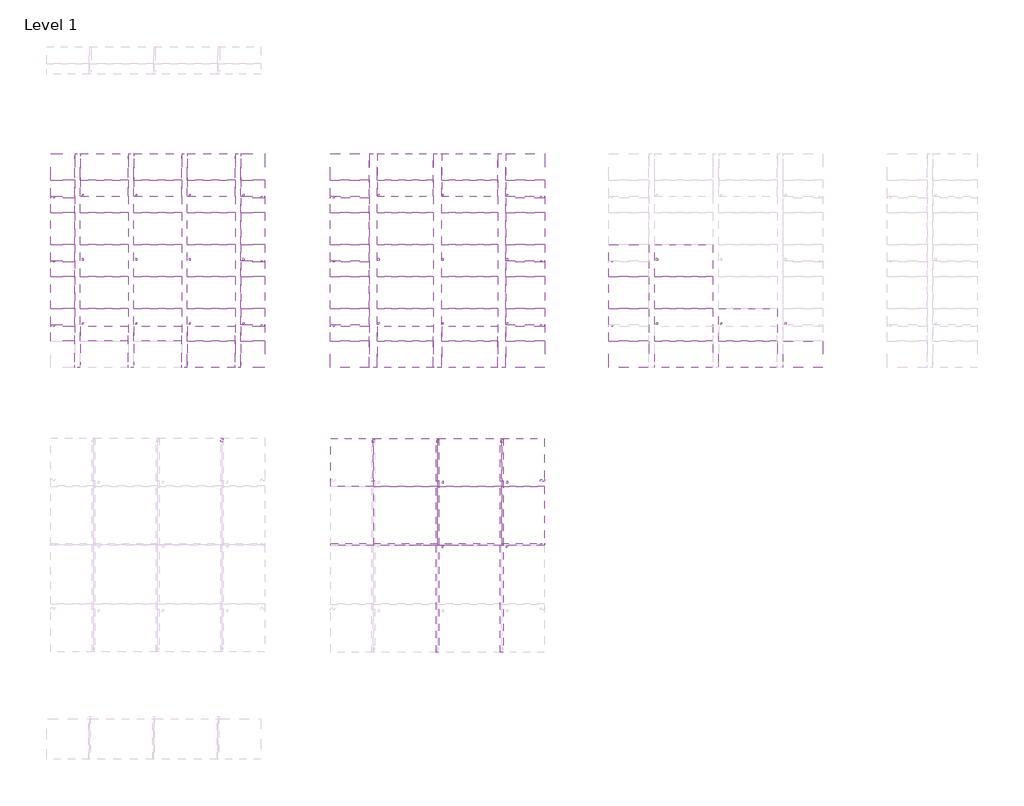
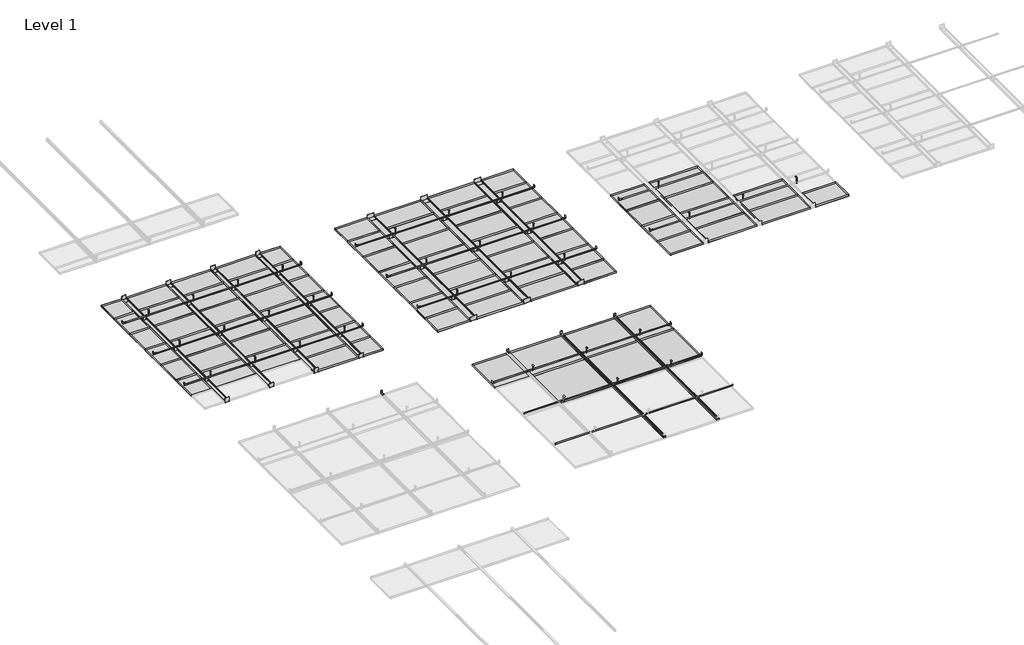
# One storey, part 3 of 32: 137 proxies.
"""IFC4 building model written with IfcOpenShell, lengths in millimetres."""

from ifc_helpers import new_model, si_unit, origin, place, context, project, spatial, transform, mapped, element, save
from components import generic_models_d1e42ad1, generic_models_d966d1ea, generic_models_a91f9f0f, generic_models_3457c1c0, generic_models_81118a57, generic_models_220a1359, generic_models_ecb8dbbe, generic_models_5ea52f49, generic_models_c5fd5fb8, generic_models_26e582ee, generic_models_d7250844, generic_models_7bf1d95b, generic_models_fdcbfbd4, generic_models_2a6c8002, generic_models_a2a5eb16, generic_models_9048d963, generic_models_91318ce9, generic_models_58ce1d20, generic_models_4de4666e, generic_models_ce491251, generic_models_ac107275, generic_models_9e18e937, generic_models_28f6a95c, generic_models_9ccf16c1, generic_models_743fb40c

model = new_model("IFC4")

# Units and contexts
model_context = context("Model", 3, world=origin())
ifc_project = project(units=[si_unit("LENGTHUNIT", "METRE", prefix="MILLI")], contexts=[model_context])

# Site, building, storey
site = spatial("IfcSite", under=ifc_project)
building = spatial("IfcBuilding", under=site)
storey = spatial("IfcBuildingStorey", under=building, Name="Level 1", Elevation=0.0)

# Proxies
placement = place(None, origin())
generic_models_shape = generic_models_d1e42ad1(model_context)
element("IfcBuildingElementProxy", 1, Name="durlum_S7KS_RHOMBOS : durlum_S7KS_RHOMBOS", ObjectType="durlum_S7KS_RHOMBOS : durlum_S7KS_RHOMBOS", at=placement, inside=storey, context=model_context, shape_type="MappedRepresentation", body=[
    mapped(generic_models_shape, transform((-38995.2269838, -7682.3044832, 0.0), x_axis=(1.0, 0.0, 0.0), y_axis=(0.0, 1.0, 0.0), z_axis=(0.0, 0.0, 1.0))),
])
generic_models_2_shape = generic_models_d966d1ea(model_context)
element("IfcBuildingElementProxy", 2, Name="durlum_S7KS_RHOMBOS_panel : durlum_S7KS_RHOMBOS_panel", ObjectType="durlum_S7KS_RHOMBOS_panel : durlum_S7KS_RHOMBOS_panel", at=placement, inside=storey, context=model_context, shape_type="MappedRepresentation", body=[
    mapped(generic_models_2_shape, transform((-39595.2269838, -7132.3044832, 3800.0), x_axis=(1.0, 0.0, 0.0), y_axis=(0.0, 1.0, 0.0), z_axis=(0.0, 0.0, 1.0))),
])
element("IfcBuildingElementProxy", 3, Name="durlum_S7KS_RHOMBOS_panel : durlum_S7KS_RHOMBOS_panel", ObjectType="durlum_S7KS_RHOMBOS_panel : durlum_S7KS_RHOMBOS_panel", at=placement, inside=storey, context=model_context, shape_type="MappedRepresentation", body=[
    mapped(generic_models_2_shape, transform((-38395.2269838, -7132.3044832, 3800.0), x_axis=(1.0, 0.0, 0.0), y_axis=(0.0, 1.0, 0.0), z_axis=(0.0, 0.0, 1.0))),
])
generic_models_3_shape = generic_models_a91f9f0f(model_context)
element("IfcBuildingElementProxy", 4, Name="durlum_S7KS_RHOMBOS_panel : durlum_S7KS_RHOMBOS_panel_wall_length_cut", ObjectType="durlum_S7KS_RHOMBOS_panel : durlum_S7KS_RHOMBOS_panel_wall_length_cut", at=placement, inside=storey, context=model_context, shape_type="MappedRepresentation", body=[
    mapped(generic_models_3_shape, transform((-37395.2269838, -7132.3044832, 3800.0), x_axis=(1.0, 0.0, 0.0), y_axis=(0.0, 1.0, 0.0), z_axis=(0.0, 0.0, 1.0))),
])
generic_models_4_shape = generic_models_3457c1c0(model_context)
element("IfcBuildingElementProxy", 5, Name="durlum_S7KS_RHOMBOS_panel : durlum_S7KS_RHOMBOS_panel_wall_width_cut", ObjectType="durlum_S7KS_RHOMBOS_panel : durlum_S7KS_RHOMBOS_panel_wall_width_cut", at=placement, inside=storey, context=model_context, shape_type="MappedRepresentation", body=[
    mapped(generic_models_4_shape, transform((-38395.2269838, -6132.3044832, 3800.0), x_axis=(1.0, 0.0, 0.0), y_axis=(0.0, 1.0, 0.0), z_axis=(0.0, 0.0, 1.0))),
])
element("IfcBuildingElementProxy", 6, Name="durlum_S7KS_RHOMBOS_panel : durlum_S7KS_RHOMBOS_panel_wall_width_cut", ObjectType="durlum_S7KS_RHOMBOS_panel : durlum_S7KS_RHOMBOS_panel_wall_width_cut", at=placement, inside=storey, context=model_context, shape_type="MappedRepresentation", body=[
    mapped(generic_models_4_shape, transform((-39595.2269838, -6132.3044832, 3800.0), x_axis=(1.0, 0.0, 0.0), y_axis=(0.0, 1.0, 0.0), z_axis=(0.0, 0.0, 1.0))),
])
generic_models_5_shape = generic_models_81118a57(model_context)
element("IfcBuildingElementProxy", 7, Name="durlum_S7KS_RHOMBOS_panel : durlum_S7KS_RHOMBOS_panel_wall_corner", ObjectType="durlum_S7KS_RHOMBOS_panel : durlum_S7KS_RHOMBOS_panel_wall_corner", at=placement, inside=storey, context=model_context, shape_type="MappedRepresentation", body=[
    mapped(generic_models_5_shape, transform((-37395.2269838, -6132.3044832, 3800.0), x_axis=(1.0, 0.0, 0.0), y_axis=(0.0, 1.0, 0.0), z_axis=(0.0, 0.0, 1.0))),
])
element("IfcBuildingElementProxy", 8, Name="durlum_S7KS_RHOMBOS_panel : durlum_S7KS_RHOMBOS_panel_wall_corner", ObjectType="durlum_S7KS_RHOMBOS_panel : durlum_S7KS_RHOMBOS_panel_wall_corner", at=placement, inside=storey, context=model_context, shape_type="MappedRepresentation", body=[
    mapped(generic_models_5_shape, transform((-40595.2269838, -6132.3044832, 3800.0), x_axis=(1.0, 0.0, 0.0), y_axis=(0.0, 1.0, 0.0), z_axis=(0.0, 0.0, 1.0))),
])
generic_models_6_shape = generic_models_220a1359(model_context)
element("IfcBuildingElementProxy", 9, Name="durlum_S5-150_RHOMBOS_panel : durlum_S5-150_RHOMBOS_panel", ObjectType="durlum_S5-150_RHOMBOS_panel : durlum_S5-150_RHOMBOS_panel", at=placement, inside=storey, context=model_context, shape_type="MappedRepresentation", body=[
    mapped(generic_models_6_shape, transform((-39595.2269838, -2961.3211481, 3800.0), x_axis=(1.0, 0.0, 0.0), y_axis=(0.0, 1.0, 0.0), z_axis=(0.0, 0.0, 1.0))),
])
element("IfcBuildingElementProxy", 10, Name="durlum_S5-150_RHOMBOS_panel : durlum_S5-150_RHOMBOS_panel", ObjectType="durlum_S5-150_RHOMBOS_panel : durlum_S5-150_RHOMBOS_panel", at=placement, inside=storey, context=model_context, shape_type="MappedRepresentation", body=[
    mapped(generic_models_6_shape, transform((-38395.2269838, -2961.3211481, 3800.0), x_axis=(1.0, 0.0, 0.0), y_axis=(0.0, 1.0, 0.0), z_axis=(0.0, 0.0, 1.0))),
])
element("IfcBuildingElementProxy", 11, Name="durlum_S5-150_RHOMBOS_panel : durlum_S5-150_RHOMBOS_panel", ObjectType="durlum_S5-150_RHOMBOS_panel : durlum_S5-150_RHOMBOS_panel", at=placement, inside=storey, context=model_context, shape_type="MappedRepresentation", body=[
    mapped(generic_models_6_shape, transform((-39595.2269838, -2361.3211481, 3800.0), x_axis=(1.0, 0.0, 0.0), y_axis=(0.0, 1.0, 0.0), z_axis=(0.0, 0.0, 1.0))),
])
element("IfcBuildingElementProxy", 12, Name="durlum_S5-150_RHOMBOS_panel : durlum_S5-150_RHOMBOS_panel", ObjectType="durlum_S5-150_RHOMBOS_panel : durlum_S5-150_RHOMBOS_panel", at=placement, inside=storey, context=model_context, shape_type="MappedRepresentation", body=[
    mapped(generic_models_6_shape, transform((-38395.2269838, -2361.3211481, 3800.0), x_axis=(1.0, 0.0, 0.0), y_axis=(0.0, 1.0, 0.0), z_axis=(0.0, 0.0, 1.0))),
])
element("IfcBuildingElementProxy", 13, Name="durlum_S5-150_RHOMBOS_panel : durlum_S5-150_RHOMBOS_panel", ObjectType="durlum_S5-150_RHOMBOS_panel : durlum_S5-150_RHOMBOS_panel", at=placement, inside=storey, context=model_context, shape_type="MappedRepresentation", body=[
    mapped(generic_models_6_shape, transform((-39595.2269838, -1761.3211481, 3800.0), x_axis=(1.0, 0.0, 0.0), y_axis=(0.0, 1.0, 0.0), z_axis=(0.0, 0.0, 1.0))),
])
element("IfcBuildingElementProxy", 14, Name="durlum_S5-150_RHOMBOS_panel : durlum_S5-150_RHOMBOS_panel", ObjectType="durlum_S5-150_RHOMBOS_panel : durlum_S5-150_RHOMBOS_panel", at=placement, inside=storey, context=model_context, shape_type="MappedRepresentation", body=[
    mapped(generic_models_6_shape, transform((-38395.2269838, -1761.3211481, 3800.0), x_axis=(1.0, 0.0, 0.0), y_axis=(0.0, 1.0, 0.0), z_axis=(0.0, 0.0, 1.0))),
])
element("IfcBuildingElementProxy", 15, Name="durlum_S5-150_RHOMBOS_panel : durlum_S5-150_RHOMBOS_panel", ObjectType="durlum_S5-150_RHOMBOS_panel : durlum_S5-150_RHOMBOS_panel", at=placement, inside=storey, context=model_context, shape_type="MappedRepresentation", body=[
    mapped(generic_models_6_shape, transform((-39595.2269838, -3561.3211481, 3800.0), x_axis=(1.0, 0.0, 0.0), y_axis=(0.0, 1.0, 0.0), z_axis=(0.0, 0.0, 1.0))),
])
element("IfcBuildingElementProxy", 16, Name="durlum_S5-150_RHOMBOS_panel : durlum_S5-150_RHOMBOS_panel", ObjectType="durlum_S5-150_RHOMBOS_panel : durlum_S5-150_RHOMBOS_panel", at=placement, inside=storey, context=model_context, shape_type="MappedRepresentation", body=[
    mapped(generic_models_6_shape, transform((-38395.2269838, -3561.3211481, 3800.0), x_axis=(1.0, 0.0, 0.0), y_axis=(0.0, 1.0, 0.0), z_axis=(0.0, 0.0, 1.0))),
])
element("IfcBuildingElementProxy", 17, Name="durlum_S5-150_RHOMBOS_panel : durlum_S5-150_RHOMBOS_panel", ObjectType="durlum_S5-150_RHOMBOS_panel : durlum_S5-150_RHOMBOS_panel", at=placement, inside=storey, context=model_context, shape_type="MappedRepresentation", body=[
    mapped(generic_models_6_shape, transform((-39595.2269838, -1161.3211481, 3800.0), x_axis=(1.0, 0.0, 0.0), y_axis=(0.0, 1.0, 0.0), z_axis=(0.0, 0.0, 1.0))),
])
element("IfcBuildingElementProxy", 18, Name="durlum_S5-150_RHOMBOS_panel : durlum_S5-150_RHOMBOS_panel", ObjectType="durlum_S5-150_RHOMBOS_panel : durlum_S5-150_RHOMBOS_panel", at=placement, inside=storey, context=model_context, shape_type="MappedRepresentation", body=[
    mapped(generic_models_6_shape, transform((-38395.2269838, -1161.3211481, 3800.0), x_axis=(1.0, 0.0, 0.0), y_axis=(0.0, 1.0, 0.0), z_axis=(0.0, 0.0, 1.0))),
])
generic_models_7_shape = generic_models_ecb8dbbe(model_context)
element("IfcBuildingElementProxy", 19, Name="durlum_S5-150_RHOMBOS_panel : durlum_S5-150_RHOMBOS_panel_wall_length_cut", ObjectType="durlum_S5-150_RHOMBOS_panel : durlum_S5-150_RHOMBOS_panel_wall_length_cut", at=placement, inside=storey, context=model_context, shape_type="MappedRepresentation", body=[
    mapped(generic_models_7_shape, transform((-40632.9769838, -2961.3211481, 3800.0), x_axis=(1.0, 0.0, 0.0), y_axis=(0.0, 1.0, 0.0), z_axis=(0.0, 0.0, 1.0))),
])
element("IfcBuildingElementProxy", 20, Name="durlum_S5-150_RHOMBOS_panel : durlum_S5-150_RHOMBOS_panel_wall_length_cut", ObjectType="durlum_S5-150_RHOMBOS_panel : durlum_S5-150_RHOMBOS_panel_wall_length_cut", at=placement, inside=storey, context=model_context, shape_type="MappedRepresentation", body=[
    mapped(generic_models_7_shape, transform((-37357.4769838, -2961.3211481, 3800.0), x_axis=(1.0, 0.0, 0.0), y_axis=(0.0, 1.0, 0.0), z_axis=(0.0, 0.0, 1.0))),
])
element("IfcBuildingElementProxy", 21, Name="durlum_S5-150_RHOMBOS_panel : durlum_S5-150_RHOMBOS_panel_wall_length_cut", ObjectType="durlum_S5-150_RHOMBOS_panel : durlum_S5-150_RHOMBOS_panel_wall_length_cut", at=placement, inside=storey, context=model_context, shape_type="MappedRepresentation", body=[
    mapped(generic_models_7_shape, transform((-40632.9769838, -2361.3211481, 3800.0), x_axis=(1.0, 0.0, 0.0), y_axis=(0.0, 1.0, 0.0), z_axis=(0.0, 0.0, 1.0))),
])
element("IfcBuildingElementProxy", 22, Name="durlum_S5-150_RHOMBOS_panel : durlum_S5-150_RHOMBOS_panel_wall_length_cut", ObjectType="durlum_S5-150_RHOMBOS_panel : durlum_S5-150_RHOMBOS_panel_wall_length_cut", at=placement, inside=storey, context=model_context, shape_type="MappedRepresentation", body=[
    mapped(generic_models_7_shape, transform((-37357.4769838, -2361.3211481, 3800.0), x_axis=(1.0, 0.0, 0.0), y_axis=(0.0, 1.0, 0.0), z_axis=(0.0, 0.0, 1.0))),
])
element("IfcBuildingElementProxy", 23, Name="durlum_S5-150_RHOMBOS_panel : durlum_S5-150_RHOMBOS_panel_wall_length_cut", ObjectType="durlum_S5-150_RHOMBOS_panel : durlum_S5-150_RHOMBOS_panel_wall_length_cut", at=placement, inside=storey, context=model_context, shape_type="MappedRepresentation", body=[
    mapped(generic_models_7_shape, transform((-40632.9769838, -1761.3211481, 3800.0), x_axis=(1.0, 0.0, 0.0), y_axis=(0.0, 1.0, 0.0), z_axis=(0.0, 0.0, 1.0))),
])
element("IfcBuildingElementProxy", 24, Name="durlum_S5-150_RHOMBOS_panel : durlum_S5-150_RHOMBOS_panel_wall_length_cut", ObjectType="durlum_S5-150_RHOMBOS_panel : durlum_S5-150_RHOMBOS_panel_wall_length_cut", at=placement, inside=storey, context=model_context, shape_type="MappedRepresentation", body=[
    mapped(generic_models_7_shape, transform((-37357.4769838, -1761.3211481, 3800.0), x_axis=(1.0, 0.0, 0.0), y_axis=(0.0, 1.0, 0.0), z_axis=(0.0, 0.0, 1.0))),
])
element("IfcBuildingElementProxy", 25, Name="durlum_S5-150_RHOMBOS_panel : durlum_S5-150_RHOMBOS_panel_wall_length_cut", ObjectType="durlum_S5-150_RHOMBOS_panel : durlum_S5-150_RHOMBOS_panel_wall_length_cut", at=placement, inside=storey, context=model_context, shape_type="MappedRepresentation", body=[
    mapped(generic_models_7_shape, transform((-40632.9769838, -3561.3211481, 3800.0), x_axis=(1.0, 0.0, 0.0), y_axis=(0.0, 1.0, 0.0), z_axis=(0.0, 0.0, 1.0))),
])
element("IfcBuildingElementProxy", 26, Name="durlum_S5-150_RHOMBOS_panel : durlum_S5-150_RHOMBOS_panel_wall_length_cut", ObjectType="durlum_S5-150_RHOMBOS_panel : durlum_S5-150_RHOMBOS_panel_wall_length_cut", at=placement, inside=storey, context=model_context, shape_type="MappedRepresentation", body=[
    mapped(generic_models_7_shape, transform((-37357.4769838, -3561.3211481, 3800.0), x_axis=(1.0, 0.0, 0.0), y_axis=(0.0, 1.0, 0.0), z_axis=(0.0, 0.0, 1.0))),
])
element("IfcBuildingElementProxy", 27, Name="durlum_S5-150_RHOMBOS_panel : durlum_S5-150_RHOMBOS_panel_wall_length_cut", ObjectType="durlum_S5-150_RHOMBOS_panel : durlum_S5-150_RHOMBOS_panel_wall_length_cut", at=placement, inside=storey, context=model_context, shape_type="MappedRepresentation", body=[
    mapped(generic_models_7_shape, transform((-37357.4769838, -1161.3211481, 3800.0), x_axis=(1.0, 0.0, 0.0), y_axis=(0.0, 1.0, 0.0), z_axis=(0.0, 0.0, 1.0))),
])
element("IfcBuildingElementProxy", 28, Name="durlum_S5-150_RHOMBOS_panel : durlum_S5-150_RHOMBOS_panel_wall_length_cut", ObjectType="durlum_S5-150_RHOMBOS_panel : durlum_S5-150_RHOMBOS_panel_wall_length_cut", at=placement, inside=storey, context=model_context, shape_type="MappedRepresentation", body=[
    mapped(generic_models_7_shape, transform((-40632.9769838, -1161.3211481, 3800.0), x_axis=(1.0, 0.0, 0.0), y_axis=(0.0, 1.0, 0.0), z_axis=(0.0, 0.0, 1.0))),
])
generic_models_8_shape = generic_models_5ea52f49(model_context)
element("IfcBuildingElementProxy", 29, Name="durlum_S5-150_RHOMBOS_panel : durlum_S5-150_RHOMBOS_panel_wall_width_cut", ObjectType="durlum_S5-150_RHOMBOS_panel : durlum_S5-150_RHOMBOS_panel_wall_width_cut", at=placement, inside=storey, context=model_context, shape_type="MappedRepresentation", body=[
    mapped(generic_models_8_shape, transform((-38395.2269838, -4111.3211481, 3800.0), x_axis=(1.0, 0.0, 0.0), y_axis=(0.0, 1.0, 0.0), z_axis=(0.0, 0.0, 1.0))),
])
element("IfcBuildingElementProxy", 30, Name="durlum_S5-150_RHOMBOS_panel : durlum_S5-150_RHOMBOS_panel_wall_width_cut", ObjectType="durlum_S5-150_RHOMBOS_panel : durlum_S5-150_RHOMBOS_panel_wall_width_cut", at=placement, inside=storey, context=model_context, shape_type="MappedRepresentation", body=[
    mapped(generic_models_8_shape, transform((-38395.2269838, -611.3211481, 3800.0), x_axis=(1.0, 0.0, 0.0), y_axis=(0.0, 1.0, 0.0), z_axis=(0.0, 0.0, 1.0))),
])
element("IfcBuildingElementProxy", 31, Name="durlum_S5-150_RHOMBOS_panel : durlum_S5-150_RHOMBOS_panel_wall_width_cut", ObjectType="durlum_S5-150_RHOMBOS_panel : durlum_S5-150_RHOMBOS_panel_wall_width_cut", at=placement, inside=storey, context=model_context, shape_type="MappedRepresentation", body=[
    mapped(generic_models_8_shape, transform((-39595.2269838, -4111.3211481, 3800.0), x_axis=(1.0, 0.0, 0.0), y_axis=(0.0, 1.0, 0.0), z_axis=(0.0, 0.0, 1.0))),
])
element("IfcBuildingElementProxy", 32, Name="durlum_S5-150_RHOMBOS_panel : durlum_S5-150_RHOMBOS_panel_wall_width_cut", ObjectType="durlum_S5-150_RHOMBOS_panel : durlum_S5-150_RHOMBOS_panel_wall_width_cut", at=placement, inside=storey, context=model_context, shape_type="MappedRepresentation", body=[
    mapped(generic_models_8_shape, transform((-39595.2269838, -611.3211481, 3800.0), x_axis=(1.0, 0.0, 0.0), y_axis=(0.0, 1.0, 0.0), z_axis=(0.0, 0.0, 1.0))),
])
generic_models_9_shape = generic_models_c5fd5fb8(model_context)
element("IfcBuildingElementProxy", 33, Name="durlum_S5-150_RHOMBOS_panel : durlum_S5-150_RHOMBOS_panel_wall_corner", ObjectType="durlum_S5-150_RHOMBOS_panel : durlum_S5-150_RHOMBOS_panel_wall_corner", at=placement, inside=storey, context=model_context, shape_type="MappedRepresentation", body=[
    mapped(generic_models_9_shape, transform((-40632.9769838, -4111.3211481, 3800.0), x_axis=(1.0, 0.0, 0.0), y_axis=(0.0, 1.0, 0.0), z_axis=(0.0, 0.0, 1.0))),
])
element("IfcBuildingElementProxy", 34, Name="durlum_S5-150_RHOMBOS_panel : durlum_S5-150_RHOMBOS_panel_wall_corner", ObjectType="durlum_S5-150_RHOMBOS_panel : durlum_S5-150_RHOMBOS_panel_wall_corner", at=placement, inside=storey, context=model_context, shape_type="MappedRepresentation", body=[
    mapped(generic_models_9_shape, transform((-37357.4769838, -4111.3211481, 3800.0), x_axis=(1.0, 0.0, 0.0), y_axis=(0.0, 1.0, 0.0), z_axis=(0.0, 0.0, 1.0))),
])
element("IfcBuildingElementProxy", 35, Name="durlum_S5-150_RHOMBOS_panel : durlum_S5-150_RHOMBOS_panel_wall_corner", ObjectType="durlum_S5-150_RHOMBOS_panel : durlum_S5-150_RHOMBOS_panel_wall_corner", at=placement, inside=storey, context=model_context, shape_type="MappedRepresentation", body=[
    mapped(generic_models_9_shape, transform((-37357.4769838, -611.3211481, 3800.0), x_axis=(1.0, 0.0, 0.0), y_axis=(0.0, 1.0, 0.0), z_axis=(0.0, 0.0, 1.0))),
])
element("IfcBuildingElementProxy", 36, Name="durlum_S5-150_RHOMBOS_panel : durlum_S5-150_RHOMBOS_panel_wall_corner", ObjectType="durlum_S5-150_RHOMBOS_panel : durlum_S5-150_RHOMBOS_panel_wall_corner", at=placement, inside=storey, context=model_context, shape_type="MappedRepresentation", body=[
    mapped(generic_models_9_shape, transform((-40632.9769838, -611.3211481, 3800.0), x_axis=(1.0, 0.0, 0.0), y_axis=(0.0, 1.0, 0.0), z_axis=(0.0, 0.0, 1.0))),
])
generic_models_10_shape = generic_models_26e582ee(model_context)
element("IfcBuildingElementProxy", 37, Name="durlum_S55.4-BR_RHOMBOS_panel : durlum_S55.4-BR_RHOMBOS_panel", ObjectType="durlum_S55.4-BR_RHOMBOS_panel : durlum_S55.4-BR_RHOMBOS_panel", at=placement, inside=storey, context=model_context, shape_type="MappedRepresentation", body=[
    mapped(generic_models_10_shape, transform((-34395.2269838, -2961.3211481, 3800.0), x_axis=(1.0, 0.0, 0.0), y_axis=(0.0, 1.0, 0.0), z_axis=(0.0, 0.0, 1.0))),
])
element("IfcBuildingElementProxy", 38, Name="durlum_S55.4-BR_RHOMBOS_panel : durlum_S55.4-BR_RHOMBOS_panel", ObjectType="durlum_S55.4-BR_RHOMBOS_panel : durlum_S55.4-BR_RHOMBOS_panel", at=placement, inside=storey, context=model_context, shape_type="MappedRepresentation", body=[
    mapped(generic_models_10_shape, transform((-34395.2269838, -2361.3211481, 3800.0), x_axis=(1.0, 0.0, 0.0), y_axis=(0.0, 1.0, 0.0), z_axis=(0.0, 0.0, 1.0))),
])
element("IfcBuildingElementProxy", 39, Name="durlum_S55.4-BR_RHOMBOS_panel : durlum_S55.4-BR_RHOMBOS_panel", ObjectType="durlum_S55.4-BR_RHOMBOS_panel : durlum_S55.4-BR_RHOMBOS_panel", at=placement, inside=storey, context=model_context, shape_type="MappedRepresentation", body=[
    mapped(generic_models_10_shape, transform((-34395.2269838, -3561.3211481, 3800.0), x_axis=(1.0, 0.0, 0.0), y_axis=(0.0, 1.0, 0.0), z_axis=(0.0, 0.0, 1.0))),
])
element("IfcBuildingElementProxy", 40, Name="durlum_S55.4-BR_RHOMBOS_panel : durlum_S55.4-BR_RHOMBOS_panel", ObjectType="durlum_S55.4-BR_RHOMBOS_panel : durlum_S55.4-BR_RHOMBOS_panel", at=placement, inside=storey, context=model_context, shape_type="MappedRepresentation", body=[
    mapped(generic_models_10_shape, transform((-33195.2269838, -3561.3211481, 3800.0), x_axis=(1.0, 0.0, 0.0), y_axis=(0.0, 1.0, 0.0), z_axis=(0.0, 0.0, 1.0))),
])
generic_models_11_shape = generic_models_d7250844(model_context)
element("IfcBuildingElementProxy", 41, Name="durlum_S55.4-BR_RHOMBOS_panel : durlum_S55.4-BR_RHOMBOS_panel_wall_width_cut", ObjectType="durlum_S55.4-BR_RHOMBOS_panel : durlum_S55.4-BR_RHOMBOS_panel_wall_width_cut", at=placement, inside=storey, context=model_context, shape_type="MappedRepresentation", body=[
    mapped(generic_models_11_shape, transform((-33195.2269838, -4111.3211481, 3800.0), x_axis=(1.0, 0.0, 0.0), y_axis=(0.0, 1.0, 0.0), z_axis=(0.0, 0.0, 1.0))),
])
element("IfcBuildingElementProxy", 42, Name="durlum_S55.4-BR_RHOMBOS_panel : durlum_S55.4-BR_RHOMBOS_panel_wall_width_cut", ObjectType="durlum_S55.4-BR_RHOMBOS_panel : durlum_S55.4-BR_RHOMBOS_panel_wall_width_cut", at=placement, inside=storey, context=model_context, shape_type="MappedRepresentation", body=[
    mapped(generic_models_11_shape, transform((-34395.2269838, -4111.3211481, 3800.0), x_axis=(1.0, 0.0, 0.0), y_axis=(0.0, 1.0, 0.0), z_axis=(0.0, 0.0, 1.0))),
])
generic_models_12_shape = generic_models_7bf1d95b(model_context)
element("IfcBuildingElementProxy", 43, Name="durlum_S55.4-BR_RHOMBOS_panel : durlum_S55.4-BR_RHOMBOS_panel_wall_length_cut", ObjectType="durlum_S55.4-BR_RHOMBOS_panel : durlum_S55.4-BR_RHOMBOS_panel_wall_length_cut", at=placement, inside=storey, context=model_context, shape_type="MappedRepresentation", body=[
    mapped(generic_models_12_shape, transform((-35422.7269838, -2961.3211481, 3800.0), x_axis=(1.0, 0.0, 0.0), y_axis=(0.0, 1.0, 0.0), z_axis=(0.0, 0.0, 1.0))),
])
element("IfcBuildingElementProxy", 44, Name="durlum_S55.4-BR_RHOMBOS_panel : durlum_S55.4-BR_RHOMBOS_panel_wall_length_cut", ObjectType="durlum_S55.4-BR_RHOMBOS_panel : durlum_S55.4-BR_RHOMBOS_panel_wall_length_cut", at=placement, inside=storey, context=model_context, shape_type="MappedRepresentation", body=[
    mapped(generic_models_12_shape, transform((-35422.7269838, -2361.3211481, 3800.0), x_axis=(1.0, 0.0, 0.0), y_axis=(0.0, 1.0, 0.0), z_axis=(0.0, 0.0, 1.0))),
])
element("IfcBuildingElementProxy", 45, Name="durlum_S55.4-BR_RHOMBOS_panel : durlum_S55.4-BR_RHOMBOS_panel_wall_length_cut", ObjectType="durlum_S55.4-BR_RHOMBOS_panel : durlum_S55.4-BR_RHOMBOS_panel_wall_length_cut", at=placement, inside=storey, context=model_context, shape_type="MappedRepresentation", body=[
    mapped(generic_models_12_shape, transform((-35422.7269838, -3561.3211481, 3800.0), x_axis=(1.0, 0.0, 0.0), y_axis=(0.0, 1.0, 0.0), z_axis=(0.0, 0.0, 1.0))),
])
generic_models_13_shape = generic_models_fdcbfbd4(model_context)
element("IfcBuildingElementProxy", 46, Name="durlum_S55.4-BR_RHOMBOS_panel : durlum_S55.4-BR_RHOMBOS_panel_wall_corner", ObjectType="durlum_S55.4-BR_RHOMBOS_panel : durlum_S55.4-BR_RHOMBOS_panel_wall_corner", at=placement, inside=storey, context=model_context, shape_type="MappedRepresentation", body=[
    mapped(generic_models_13_shape, transform((-35422.7269838, -4111.3211481, 3800.0), x_axis=(1.0, 0.0, 0.0), y_axis=(0.0, 1.0, 0.0), z_axis=(0.0, 0.0, 1.0))),
])
element("IfcBuildingElementProxy", 47, Name="durlum_S55.4-BR_RHOMBOS_panel : durlum_S55.4-BR_RHOMBOS_panel_wall_corner", ObjectType="durlum_S55.4-BR_RHOMBOS_panel : durlum_S55.4-BR_RHOMBOS_panel_wall_corner", at=placement, inside=storey, context=model_context, shape_type="MappedRepresentation", body=[
    mapped(generic_models_13_shape, transform((-32167.7269838, -4111.3211481, 3800.0), x_axis=(1.0, 0.0, 0.0), y_axis=(0.0, 1.0, 0.0), z_axis=(0.0, 0.0, 1.0))),
])
generic_models_14_shape = generic_models_2a6c8002(model_context)
element("IfcBuildingElementProxy", 48, Name="durlum_S5-150_RHOMBOS : durlum_S5-150_RHOMBOS", ObjectType="durlum_S5-150_RHOMBOS : durlum_S5-150_RHOMBOS", at=placement, inside=storey, context=model_context, shape_type="MappedRepresentation", body=[
    mapped(generic_models_14_shape, transform((-38995.2269838, -2361.3211481, 0.0), x_axis=(1.0, 0.0, 0.0), y_axis=(0.0, 1.0, 0.0), z_axis=(0.0, 0.0, 1.0))),
])
generic_models_15_shape = generic_models_a2a5eb16(model_context)
element("IfcBuildingElementProxy", 49, Name="durlum_S5-100_RHOMBOS_panel : durlum_S5-100_RHOMBOS_panel", ObjectType="durlum_S5-100_RHOMBOS_panel : durlum_S5-100_RHOMBOS_panel", at=placement, inside=storey, context=model_context, shape_type="MappedRepresentation", body=[
    mapped(generic_models_15_shape, transform((-45221.0989201, -2961.3211481, 3800.0), x_axis=(1.0, 0.0, 0.0), y_axis=(0.0, 1.0, 0.0), z_axis=(0.0, 0.0, 1.0))),
])
element("IfcBuildingElementProxy", 50, Name="durlum_S5-100_RHOMBOS_panel : durlum_S5-100_RHOMBOS_panel", ObjectType="durlum_S5-100_RHOMBOS_panel : durlum_S5-100_RHOMBOS_panel", at=placement, inside=storey, context=model_context, shape_type="MappedRepresentation", body=[
    mapped(generic_models_15_shape, transform((-43221.0989201, -2961.3211481, 3800.0), x_axis=(1.0, 0.0, 0.0), y_axis=(0.0, 1.0, 0.0), z_axis=(0.0, 0.0, 1.0))),
])
element("IfcBuildingElementProxy", 51, Name="durlum_S5-100_RHOMBOS_panel : durlum_S5-100_RHOMBOS_panel", ObjectType="durlum_S5-100_RHOMBOS_panel : durlum_S5-100_RHOMBOS_panel", at=placement, inside=storey, context=model_context, shape_type="MappedRepresentation", body=[
    mapped(generic_models_15_shape, transform((-45221.0989201, -2361.3211481, 3800.0), x_axis=(1.0, 0.0, 0.0), y_axis=(0.0, 1.0, 0.0), z_axis=(0.0, 0.0, 1.0))),
])
element("IfcBuildingElementProxy", 52, Name="durlum_S5-100_RHOMBOS_panel : durlum_S5-100_RHOMBOS_panel", ObjectType="durlum_S5-100_RHOMBOS_panel : durlum_S5-100_RHOMBOS_panel", at=placement, inside=storey, context=model_context, shape_type="MappedRepresentation", body=[
    mapped(generic_models_15_shape, transform((-43221.0989201, -2361.3211481, 3800.0), x_axis=(1.0, 0.0, 0.0), y_axis=(0.0, 1.0, 0.0), z_axis=(0.0, 0.0, 1.0))),
])
element("IfcBuildingElementProxy", 53, Name="durlum_S5-100_RHOMBOS_panel : durlum_S5-100_RHOMBOS_panel", ObjectType="durlum_S5-100_RHOMBOS_panel : durlum_S5-100_RHOMBOS_panel", at=placement, inside=storey, context=model_context, shape_type="MappedRepresentation", body=[
    mapped(generic_models_15_shape, transform((-45221.0989201, -1761.3211481, 3800.0), x_axis=(1.0, 0.0, 0.0), y_axis=(0.0, 1.0, 0.0), z_axis=(0.0, 0.0, 1.0))),
])
element("IfcBuildingElementProxy", 54, Name="durlum_S5-100_RHOMBOS_panel : durlum_S5-100_RHOMBOS_panel", ObjectType="durlum_S5-100_RHOMBOS_panel : durlum_S5-100_RHOMBOS_panel", at=placement, inside=storey, context=model_context, shape_type="MappedRepresentation", body=[
    mapped(generic_models_15_shape, transform((-43221.0989201, -1761.3211481, 3800.0), x_axis=(1.0, 0.0, 0.0), y_axis=(0.0, 1.0, 0.0), z_axis=(0.0, 0.0, 1.0))),
])
element("IfcBuildingElementProxy", 55, Name="durlum_S5-100_RHOMBOS_panel : durlum_S5-100_RHOMBOS_panel", ObjectType="durlum_S5-100_RHOMBOS_panel : durlum_S5-100_RHOMBOS_panel", at=placement, inside=storey, context=model_context, shape_type="MappedRepresentation", body=[
    mapped(generic_models_15_shape, transform((-45221.0989201, -3561.3211481, 3800.0), x_axis=(1.0, 0.0, 0.0), y_axis=(0.0, 1.0, 0.0), z_axis=(0.0, 0.0, 1.0))),
])
element("IfcBuildingElementProxy", 56, Name="durlum_S5-100_RHOMBOS_panel : durlum_S5-100_RHOMBOS_panel", ObjectType="durlum_S5-100_RHOMBOS_panel : durlum_S5-100_RHOMBOS_panel", at=placement, inside=storey, context=model_context, shape_type="MappedRepresentation", body=[
    mapped(generic_models_15_shape, transform((-43221.0989201, -3561.3211481, 3800.0), x_axis=(1.0, 0.0, 0.0), y_axis=(0.0, 1.0, 0.0), z_axis=(0.0, 0.0, 1.0))),
])
element("IfcBuildingElementProxy", 57, Name="durlum_S5-100_RHOMBOS_panel : durlum_S5-100_RHOMBOS_panel", ObjectType="durlum_S5-100_RHOMBOS_panel : durlum_S5-100_RHOMBOS_panel", at=placement, inside=storey, context=model_context, shape_type="MappedRepresentation", body=[
    mapped(generic_models_15_shape, transform((-45221.0989201, -1161.3211481, 3800.0), x_axis=(1.0, 0.0, 0.0), y_axis=(0.0, 1.0, 0.0), z_axis=(0.0, 0.0, 1.0))),
])
element("IfcBuildingElementProxy", 58, Name="durlum_S5-100_RHOMBOS_panel : durlum_S5-100_RHOMBOS_panel", ObjectType="durlum_S5-100_RHOMBOS_panel : durlum_S5-100_RHOMBOS_panel", at=placement, inside=storey, context=model_context, shape_type="MappedRepresentation", body=[
    mapped(generic_models_15_shape, transform((-43221.0989201, -1161.3211481, 3800.0), x_axis=(1.0, 0.0, 0.0), y_axis=(0.0, 1.0, 0.0), z_axis=(0.0, 0.0, 1.0))),
])
element("IfcBuildingElementProxy", 59, Name="durlum_S5-100_RHOMBOS_panel : durlum_S5-100_RHOMBOS_panel", ObjectType="durlum_S5-100_RHOMBOS_panel : durlum_S5-100_RHOMBOS_panel", at=placement, inside=storey, context=model_context, shape_type="MappedRepresentation", body=[
    mapped(generic_models_15_shape, transform((-44221.0989201, -2961.3211481, 3800.0), x_axis=(1.0, 0.0, 0.0), y_axis=(0.0, 1.0, 0.0), z_axis=(0.0, 0.0, 1.0))),
])
element("IfcBuildingElementProxy", 60, Name="durlum_S5-100_RHOMBOS_panel : durlum_S5-100_RHOMBOS_panel", ObjectType="durlum_S5-100_RHOMBOS_panel : durlum_S5-100_RHOMBOS_panel", at=placement, inside=storey, context=model_context, shape_type="MappedRepresentation", body=[
    mapped(generic_models_15_shape, transform((-44221.0989201, -2361.3211481, 3800.0), x_axis=(1.0, 0.0, 0.0), y_axis=(0.0, 1.0, 0.0), z_axis=(0.0, 0.0, 1.0))),
])
element("IfcBuildingElementProxy", 61, Name="durlum_S5-100_RHOMBOS_panel : durlum_S5-100_RHOMBOS_panel", ObjectType="durlum_S5-100_RHOMBOS_panel : durlum_S5-100_RHOMBOS_panel", at=placement, inside=storey, context=model_context, shape_type="MappedRepresentation", body=[
    mapped(generic_models_15_shape, transform((-44221.0989201, -1761.3211481, 3800.0), x_axis=(1.0, 0.0, 0.0), y_axis=(0.0, 1.0, 0.0), z_axis=(0.0, 0.0, 1.0))),
])
element("IfcBuildingElementProxy", 62, Name="durlum_S5-100_RHOMBOS_panel : durlum_S5-100_RHOMBOS_panel", ObjectType="durlum_S5-100_RHOMBOS_panel : durlum_S5-100_RHOMBOS_panel", at=placement, inside=storey, context=model_context, shape_type="MappedRepresentation", body=[
    mapped(generic_models_15_shape, transform((-44221.0989201, -3561.3211481, 3800.0), x_axis=(1.0, 0.0, 0.0), y_axis=(0.0, 1.0, 0.0), z_axis=(0.0, 0.0, 1.0))),
])
element("IfcBuildingElementProxy", 63, Name="durlum_S5-100_RHOMBOS_panel : durlum_S5-100_RHOMBOS_panel", ObjectType="durlum_S5-100_RHOMBOS_panel : durlum_S5-100_RHOMBOS_panel", at=placement, inside=storey, context=model_context, shape_type="MappedRepresentation", body=[
    mapped(generic_models_15_shape, transform((-44221.0989201, -1161.3211481, 3800.0), x_axis=(1.0, 0.0, 0.0), y_axis=(0.0, 1.0, 0.0), z_axis=(0.0, 0.0, 1.0))),
])
generic_models_16_shape = generic_models_9048d963(model_context)
element("IfcBuildingElementProxy", 64, Name="durlum_S5-100_RHOMBOS_panel : durlum_S5-100_RHOMBOS_panel_wall_width_cut", ObjectType="durlum_S5-100_RHOMBOS_panel : durlum_S5-100_RHOMBOS_panel_wall_width_cut", at=placement, inside=storey, context=model_context, shape_type="MappedRepresentation", body=[
    mapped(generic_models_16_shape, transform((-43221.0989201, -4111.3211481, 3800.0), x_axis=(1.0, 0.0, 0.0), y_axis=(0.0, 1.0, 0.0), z_axis=(0.0, 0.0, 1.0))),
])
element("IfcBuildingElementProxy", 65, Name="durlum_S5-100_RHOMBOS_panel : durlum_S5-100_RHOMBOS_panel_wall_width_cut", ObjectType="durlum_S5-100_RHOMBOS_panel : durlum_S5-100_RHOMBOS_panel_wall_width_cut", at=placement, inside=storey, context=model_context, shape_type="MappedRepresentation", body=[
    mapped(generic_models_16_shape, transform((-43221.0989201, -611.3211481, 3800.0), x_axis=(1.0, 0.0, 0.0), y_axis=(0.0, 1.0, 0.0), z_axis=(0.0, 0.0, 1.0))),
])
element("IfcBuildingElementProxy", 66, Name="durlum_S5-100_RHOMBOS_panel : durlum_S5-100_RHOMBOS_panel_wall_width_cut", ObjectType="durlum_S5-100_RHOMBOS_panel : durlum_S5-100_RHOMBOS_panel_wall_width_cut", at=placement, inside=storey, context=model_context, shape_type="MappedRepresentation", body=[
    mapped(generic_models_16_shape, transform((-45221.0989201, -611.3211481, 3800.0), x_axis=(1.0, 0.0, 0.0), y_axis=(0.0, 1.0, 0.0), z_axis=(0.0, 0.0, 1.0))),
])
element("IfcBuildingElementProxy", 67, Name="durlum_S5-100_RHOMBOS_panel : durlum_S5-100_RHOMBOS_panel_wall_width_cut", ObjectType="durlum_S5-100_RHOMBOS_panel : durlum_S5-100_RHOMBOS_panel_wall_width_cut", at=placement, inside=storey, context=model_context, shape_type="MappedRepresentation", body=[
    mapped(generic_models_16_shape, transform((-44221.0989201, -611.3211481, 3800.0), x_axis=(1.0, 0.0, 0.0), y_axis=(0.0, 1.0, 0.0), z_axis=(0.0, 0.0, 1.0))),
])
generic_models_17_shape = generic_models_91318ce9(model_context)
element("IfcBuildingElementProxy", 68, Name="durlum_S5-100_RHOMBOS : durlum_S5-100_RHOMBOS", ObjectType="durlum_S5-100_RHOMBOS : durlum_S5-100_RHOMBOS", at=placement, inside=storey, context=model_context, shape_type="MappedRepresentation", body=[
    mapped(generic_models_17_shape, transform((-44221.0989201, -2361.3211481, 0.0), x_axis=(1.0, 0.0, 0.0), y_axis=(0.0, 1.0, 0.0), z_axis=(0.0, 0.0, 1.0))),
])
generic_models_18_shape = generic_models_58ce1d20(model_context)
element("IfcBuildingElementProxy", 69, Name="durlum_S5-100_RHOMBOS_panel : durlum_S5-100_RHOMBOS_panel_wall_length_cut", ObjectType="durlum_S5-100_RHOMBOS_panel : durlum_S5-100_RHOMBOS_panel_wall_length_cut", at=placement, inside=storey, context=model_context, shape_type="MappedRepresentation", body=[
    mapped(generic_models_18_shape, transform((-45996.3489201, -2961.3211481, 3800.0), x_axis=(1.0, 0.0, 0.0), y_axis=(0.0, 1.0, 0.0), z_axis=(0.0, 0.0, 1.0))),
])
element("IfcBuildingElementProxy", 70, Name="durlum_S5-100_RHOMBOS_panel : durlum_S5-100_RHOMBOS_panel_wall_length_cut", ObjectType="durlum_S5-100_RHOMBOS_panel : durlum_S5-100_RHOMBOS_panel_wall_length_cut", at=placement, inside=storey, context=model_context, shape_type="MappedRepresentation", body=[
    mapped(generic_models_18_shape, transform((-42445.8489201, -2961.3211481, 3800.0), x_axis=(1.0, 0.0, 0.0), y_axis=(0.0, 1.0, 0.0), z_axis=(0.0, 0.0, 1.0))),
])
element("IfcBuildingElementProxy", 71, Name="durlum_S5-100_RHOMBOS_panel : durlum_S5-100_RHOMBOS_panel_wall_length_cut", ObjectType="durlum_S5-100_RHOMBOS_panel : durlum_S5-100_RHOMBOS_panel_wall_length_cut", at=placement, inside=storey, context=model_context, shape_type="MappedRepresentation", body=[
    mapped(generic_models_18_shape, transform((-45996.3489201, -2361.3211481, 3800.0), x_axis=(1.0, 0.0, 0.0), y_axis=(0.0, 1.0, 0.0), z_axis=(0.0, 0.0, 1.0))),
])
element("IfcBuildingElementProxy", 72, Name="durlum_S5-100_RHOMBOS_panel : durlum_S5-100_RHOMBOS_panel_wall_length_cut", ObjectType="durlum_S5-100_RHOMBOS_panel : durlum_S5-100_RHOMBOS_panel_wall_length_cut", at=placement, inside=storey, context=model_context, shape_type="MappedRepresentation", body=[
    mapped(generic_models_18_shape, transform((-42445.8489201, -2361.3211481, 3800.0), x_axis=(1.0, 0.0, 0.0), y_axis=(0.0, 1.0, 0.0), z_axis=(0.0, 0.0, 1.0))),
])
element("IfcBuildingElementProxy", 73, Name="durlum_S5-100_RHOMBOS_panel : durlum_S5-100_RHOMBOS_panel_wall_length_cut", ObjectType="durlum_S5-100_RHOMBOS_panel : durlum_S5-100_RHOMBOS_panel_wall_length_cut", at=placement, inside=storey, context=model_context, shape_type="MappedRepresentation", body=[
    mapped(generic_models_18_shape, transform((-45996.3489201, -1761.3211481, 3800.0), x_axis=(1.0, 0.0, 0.0), y_axis=(0.0, 1.0, 0.0), z_axis=(0.0, 0.0, 1.0))),
])
element("IfcBuildingElementProxy", 74, Name="durlum_S5-100_RHOMBOS_panel : durlum_S5-100_RHOMBOS_panel_wall_length_cut", ObjectType="durlum_S5-100_RHOMBOS_panel : durlum_S5-100_RHOMBOS_panel_wall_length_cut", at=placement, inside=storey, context=model_context, shape_type="MappedRepresentation", body=[
    mapped(generic_models_18_shape, transform((-42445.8489201, -1761.3211481, 3800.0), x_axis=(1.0, 0.0, 0.0), y_axis=(0.0, 1.0, 0.0), z_axis=(0.0, 0.0, 1.0))),
])
element("IfcBuildingElementProxy", 75, Name="durlum_S5-100_RHOMBOS_panel : durlum_S5-100_RHOMBOS_panel_wall_length_cut", ObjectType="durlum_S5-100_RHOMBOS_panel : durlum_S5-100_RHOMBOS_panel_wall_length_cut", at=placement, inside=storey, context=model_context, shape_type="MappedRepresentation", body=[
    mapped(generic_models_18_shape, transform((-45996.3489201, -3561.3211481, 3800.0), x_axis=(1.0, 0.0, 0.0), y_axis=(0.0, 1.0, 0.0), z_axis=(0.0, 0.0, 1.0))),
])
element("IfcBuildingElementProxy", 76, Name="durlum_S5-100_RHOMBOS_panel : durlum_S5-100_RHOMBOS_panel_wall_length_cut", ObjectType="durlum_S5-100_RHOMBOS_panel : durlum_S5-100_RHOMBOS_panel_wall_length_cut", at=placement, inside=storey, context=model_context, shape_type="MappedRepresentation", body=[
    mapped(generic_models_18_shape, transform((-42445.8489201, -3561.3211481, 3800.0), x_axis=(1.0, 0.0, 0.0), y_axis=(0.0, 1.0, 0.0), z_axis=(0.0, 0.0, 1.0))),
])
element("IfcBuildingElementProxy", 77, Name="durlum_S5-100_RHOMBOS_panel : durlum_S5-100_RHOMBOS_panel_wall_length_cut", ObjectType="durlum_S5-100_RHOMBOS_panel : durlum_S5-100_RHOMBOS_panel_wall_length_cut", at=placement, inside=storey, context=model_context, shape_type="MappedRepresentation", body=[
    mapped(generic_models_18_shape, transform((-42445.8489201, -1161.3211481, 3800.0), x_axis=(1.0, 0.0, 0.0), y_axis=(0.0, 1.0, 0.0), z_axis=(0.0, 0.0, 1.0))),
])
element("IfcBuildingElementProxy", 78, Name="durlum_S5-100_RHOMBOS_panel : durlum_S5-100_RHOMBOS_panel_wall_length_cut", ObjectType="durlum_S5-100_RHOMBOS_panel : durlum_S5-100_RHOMBOS_panel_wall_length_cut", at=placement, inside=storey, context=model_context, shape_type="MappedRepresentation", body=[
    mapped(generic_models_18_shape, transform((-45996.3489201, -1161.3211481, 3800.0), x_axis=(1.0, 0.0, 0.0), y_axis=(0.0, 1.0, 0.0), z_axis=(0.0, 0.0, 1.0))),
])
generic_models_19_shape = generic_models_4de4666e(model_context)
element("IfcBuildingElementProxy", 79, Name="durlum_S5-100_RHOMBOS_panel : durlum_S5-100_RHOMBOS_panel_wall_corner", ObjectType="durlum_S5-100_RHOMBOS_panel : durlum_S5-100_RHOMBOS_panel_wall_corner", at=placement, inside=storey, context=model_context, shape_type="MappedRepresentation", body=[
    mapped(generic_models_19_shape, transform((-42445.8489201, -4111.3211481, 3800.0), x_axis=(1.0, 0.0, 0.0), y_axis=(0.0, 1.0, 0.0), z_axis=(0.0, 0.0, 1.0))),
])
element("IfcBuildingElementProxy", 80, Name="durlum_S5-100_RHOMBOS_panel : durlum_S5-100_RHOMBOS_panel_wall_corner", ObjectType="durlum_S5-100_RHOMBOS_panel : durlum_S5-100_RHOMBOS_panel_wall_corner", at=placement, inside=storey, context=model_context, shape_type="MappedRepresentation", body=[
    mapped(generic_models_19_shape, transform((-42445.8489201, -611.3211481, 3800.0), x_axis=(1.0, 0.0, 0.0), y_axis=(0.0, 1.0, 0.0), z_axis=(0.0, 0.0, 1.0))),
])
element("IfcBuildingElementProxy", 81, Name="durlum_S5-100_RHOMBOS_panel : durlum_S5-100_RHOMBOS_panel_wall_corner", ObjectType="durlum_S5-100_RHOMBOS_panel : durlum_S5-100_RHOMBOS_panel_wall_corner", at=placement, inside=storey, context=model_context, shape_type="MappedRepresentation", body=[
    mapped(generic_models_19_shape, transform((-45996.3489201, -611.3211481, 3800.0), x_axis=(1.0, 0.0, 0.0), y_axis=(0.0, 1.0, 0.0), z_axis=(0.0, 0.0, 1.0))),
])
generic_models_20_shape = generic_models_ce491251(model_context)
element("IfcBuildingElementProxy", 82, Name="durlum_U1300 : durlum_U1300", ObjectType="durlum_U1300 : durlum_U1300", at=placement, inside=storey, context=model_context, shape_type="MappedRepresentation", body=[
    mapped(generic_models_20_shape, transform((-45621.0989201, -3561.3211481, 3149.4124682), x_axis=(-1.0, 0.0, 0.0), y_axis=(0.0, -1.0, 0.0), z_axis=(0.0, 0.0, 1.0))),
])
element("IfcBuildingElementProxy", 83, Name="durlum_U1300 : durlum_U1300", ObjectType="durlum_U1300 : durlum_U1300", at=placement, inside=storey, context=model_context, shape_type="MappedRepresentation", body=[
    mapped(generic_models_20_shape, transform((-42621.0989201, -3561.3211481, 3149.4124682), x_axis=(-1.0, 0.0, 0.0), y_axis=(0.0, -1.0, 0.0), z_axis=(0.0, 0.0, 1.0))),
])
element("IfcBuildingElementProxy", 84, Name="durlum_U1300 : durlum_U1300", ObjectType="durlum_U1300 : durlum_U1300", at=placement, inside=storey, context=model_context, shape_type="MappedRepresentation", body=[
    mapped(generic_models_20_shape, transform((-44621.0989201, -3561.3211481, 3149.4124682), x_axis=(-1.0, 0.0, 0.0), y_axis=(0.0, -1.0, 0.0), z_axis=(0.0, 0.0, 1.0))),
])
element("IfcBuildingElementProxy", 85, Name="durlum_U1300 : durlum_U1300", ObjectType="durlum_U1300 : durlum_U1300", at=placement, inside=storey, context=model_context, shape_type="MappedRepresentation", body=[
    mapped(generic_models_20_shape, transform((-45621.0989201, -1161.3211481, 3149.4124682), x_axis=(-1.0, 0.0, 0.0), y_axis=(0.0, -1.0, 0.0), z_axis=(0.0, 0.0, 1.0))),
])
element("IfcBuildingElementProxy", 86, Name="durlum_U1300 : durlum_U1300", ObjectType="durlum_U1300 : durlum_U1300", at=placement, inside=storey, context=model_context, shape_type="MappedRepresentation", body=[
    mapped(generic_models_20_shape, transform((-42621.0989201, -1161.3211481, 3149.4124682), x_axis=(-1.0, 0.0, 0.0), y_axis=(0.0, -1.0, 0.0), z_axis=(0.0, 0.0, 1.0))),
])
element("IfcBuildingElementProxy", 87, Name="durlum_U1300 : durlum_U1300", ObjectType="durlum_U1300 : durlum_U1300", at=placement, inside=storey, context=model_context, shape_type="MappedRepresentation", body=[
    mapped(generic_models_20_shape, transform((-44621.0989201, -1161.3211481, 3149.4124682), x_axis=(-1.0, 0.0, 0.0), y_axis=(0.0, -1.0, 0.0), z_axis=(0.0, 0.0, 1.0))),
])
element("IfcBuildingElementProxy", 88, Name="durlum_U1300 : durlum_U1300", ObjectType="durlum_U1300 : durlum_U1300", at=placement, inside=storey, context=model_context, shape_type="MappedRepresentation", body=[
    mapped(generic_models_20_shape, transform((-45621.0989201, -2361.3211481, 3149.4124682), x_axis=(-1.0, 0.0, 0.0), y_axis=(0.0, -1.0, 0.0), z_axis=(0.0, 0.0, 1.0))),
])
element("IfcBuildingElementProxy", 89, Name="durlum_U1300 : durlum_U1300", ObjectType="durlum_U1300 : durlum_U1300", at=placement, inside=storey, context=model_context, shape_type="MappedRepresentation", body=[
    mapped(generic_models_20_shape, transform((-42621.0989201, -2361.3211481, 3149.4124682), x_axis=(-1.0, 0.0, 0.0), y_axis=(0.0, -1.0, 0.0), z_axis=(0.0, 0.0, 1.0))),
])
element("IfcBuildingElementProxy", 90, Name="durlum_U1300 : durlum_U1300", ObjectType="durlum_U1300 : durlum_U1300", at=placement, inside=storey, context=model_context, shape_type="MappedRepresentation", body=[
    mapped(generic_models_20_shape, transform((-44621.0989201, -2361.3211481, 3149.4124682), x_axis=(-1.0, 0.0, 0.0), y_axis=(0.0, -1.0, 0.0), z_axis=(0.0, 0.0, 1.0))),
])
element("IfcBuildingElementProxy", 91, Name="durlum_U1300 : durlum_U1300", ObjectType="durlum_U1300 : durlum_U1300", at=placement, inside=storey, context=model_context, shape_type="MappedRepresentation", body=[
    mapped(generic_models_20_shape, transform((-40095.2269838, -3561.3211481, 3149.4124682), x_axis=(-1.0, 0.0, 0.0), y_axis=(0.0, -1.0, 0.0), z_axis=(0.0, 0.0, 1.0))),
])
element("IfcBuildingElementProxy", 92, Name="durlum_U1300 : durlum_U1300", ObjectType="durlum_U1300 : durlum_U1300", at=placement, inside=storey, context=model_context, shape_type="MappedRepresentation", body=[
    mapped(generic_models_20_shape, transform((-37695.2269838, -3561.3211481, 3149.4124682), x_axis=(-1.0, 0.0, 0.0), y_axis=(0.0, -1.0, 0.0), z_axis=(0.0, 0.0, 1.0))),
])
element("IfcBuildingElementProxy", 93, Name="durlum_U1300 : durlum_U1300", ObjectType="durlum_U1300 : durlum_U1300", at=placement, inside=storey, context=model_context, shape_type="MappedRepresentation", body=[
    mapped(generic_models_20_shape, transform((-38895.2269838, -3561.3211481, 3149.4124682), x_axis=(-1.0, 0.0, 0.0), y_axis=(0.0, -1.0, 0.0), z_axis=(0.0, 0.0, 1.0))),
])
element("IfcBuildingElementProxy", 94, Name="durlum_U1300 : durlum_U1300", ObjectType="durlum_U1300 : durlum_U1300", at=placement, inside=storey, context=model_context, shape_type="MappedRepresentation", body=[
    mapped(generic_models_20_shape, transform((-40095.2269838, -1161.3211481, 3149.4124682), x_axis=(-1.0, 0.0, 0.0), y_axis=(0.0, -1.0, 0.0), z_axis=(0.0, 0.0, 1.0))),
])
element("IfcBuildingElementProxy", 95, Name="durlum_U1300 : durlum_U1300", ObjectType="durlum_U1300 : durlum_U1300", at=placement, inside=storey, context=model_context, shape_type="MappedRepresentation", body=[
    mapped(generic_models_20_shape, transform((-37695.2269838, -1161.3211481, 3149.4124682), x_axis=(-1.0, 0.0, 0.0), y_axis=(0.0, -1.0, 0.0), z_axis=(0.0, 0.0, 1.0))),
])
element("IfcBuildingElementProxy", 96, Name="durlum_U1300 : durlum_U1300", ObjectType="durlum_U1300 : durlum_U1300", at=placement, inside=storey, context=model_context, shape_type="MappedRepresentation", body=[
    mapped(generic_models_20_shape, transform((-38895.2269838, -1161.3211481, 3149.4124682), x_axis=(-1.0, 0.0, 0.0), y_axis=(0.0, -1.0, 0.0), z_axis=(0.0, 0.0, 1.0))),
])
element("IfcBuildingElementProxy", 97, Name="durlum_U1300 : durlum_U1300", ObjectType="durlum_U1300 : durlum_U1300", at=placement, inside=storey, context=model_context, shape_type="MappedRepresentation", body=[
    mapped(generic_models_20_shape, transform((-40095.2269838, -2361.3211481, 3149.4124682), x_axis=(-1.0, 0.0, 0.0), y_axis=(0.0, -1.0, 0.0), z_axis=(0.0, 0.0, 1.0))),
])
element("IfcBuildingElementProxy", 98, Name="durlum_U1300 : durlum_U1300", ObjectType="durlum_U1300 : durlum_U1300", at=placement, inside=storey, context=model_context, shape_type="MappedRepresentation", body=[
    mapped(generic_models_20_shape, transform((-37695.2269838, -2361.3211481, 3149.4124682), x_axis=(-1.0, 0.0, 0.0), y_axis=(0.0, -1.0, 0.0), z_axis=(0.0, 0.0, 1.0))),
])
element("IfcBuildingElementProxy", 99, Name="durlum_U1300 : durlum_U1300", ObjectType="durlum_U1300 : durlum_U1300", at=placement, inside=storey, context=model_context, shape_type="MappedRepresentation", body=[
    mapped(generic_models_20_shape, transform((-38895.2269838, -2361.3211481, 3149.4124682), x_axis=(-1.0, 0.0, 0.0), y_axis=(0.0, -1.0, 0.0), z_axis=(0.0, 0.0, 1.0))),
])
element("IfcBuildingElementProxy", 100, Name="durlum_U1300 : durlum_U1300", ObjectType="durlum_U1300 : durlum_U1300", at=placement, inside=storey, context=model_context, shape_type="MappedRepresentation", body=[
    mapped(generic_models_20_shape, transform((-34895.2269838, -3561.3211481, 3149.4124682), x_axis=(-1.0, 0.0, 0.0), y_axis=(0.0, -1.0, 0.0), z_axis=(0.0, 0.0, 1.0))),
])
element("IfcBuildingElementProxy", 101, Name="durlum_U1300 : durlum_U1300", ObjectType="durlum_U1300 : durlum_U1300", at=placement, inside=storey, context=model_context, shape_type="MappedRepresentation", body=[
    mapped(generic_models_20_shape, transform((-32495.2269838, -3561.3211481, 3149.4124682), x_axis=(-1.0, 0.0, 0.0), y_axis=(0.0, -1.0, 0.0), z_axis=(0.0, 0.0, 1.0))),
])
element("IfcBuildingElementProxy", 102, Name="durlum_U1300 : durlum_U1300", ObjectType="durlum_U1300 : durlum_U1300", at=placement, inside=storey, context=model_context, shape_type="MappedRepresentation", body=[
    mapped(generic_models_20_shape, transform((-33695.2269838, -3561.3211481, 3149.4124682), x_axis=(-1.0, 0.0, 0.0), y_axis=(0.0, -1.0, 0.0), z_axis=(0.0, 0.0, 1.0))),
])
element("IfcBuildingElementProxy", 103, Name="durlum_U1300 : durlum_U1300", ObjectType="durlum_U1300 : durlum_U1300", at=placement, inside=storey, context=model_context, shape_type="MappedRepresentation", body=[
    mapped(generic_models_20_shape, transform((-34895.2269838, -2361.3211481, 3149.4124682), x_axis=(-1.0, 0.0, 0.0), y_axis=(0.0, -1.0, 0.0), z_axis=(0.0, 0.0, 1.0))),
])
element("IfcBuildingElementProxy", 104, Name="durlum_U1300 : durlum_U1300", ObjectType="durlum_U1300 : durlum_U1300", at=placement, inside=storey, context=model_context, shape_type="MappedRepresentation", body=[
    mapped(generic_models_20_shape, transform((-43621.0989201, -3561.3211481, 3149.4124682), x_axis=(-1.0, 0.0, 0.0), y_axis=(0.0, -1.0, 0.0), z_axis=(0.0, 0.0, 1.0))),
])
element("IfcBuildingElementProxy", 105, Name="durlum_U1300 : durlum_U1300", ObjectType="durlum_U1300 : durlum_U1300", at=placement, inside=storey, context=model_context, shape_type="MappedRepresentation", body=[
    mapped(generic_models_20_shape, transform((-43621.0989201, -1161.3211481, 3149.4124682), x_axis=(-1.0, 0.0, 0.0), y_axis=(0.0, -1.0, 0.0), z_axis=(0.0, 0.0, 1.0))),
])
element("IfcBuildingElementProxy", 106, Name="durlum_U1300 : durlum_U1300", ObjectType="durlum_U1300 : durlum_U1300", at=placement, inside=storey, context=model_context, shape_type="MappedRepresentation", body=[
    mapped(generic_models_20_shape, transform((-43621.0989201, -2361.3211481, 3149.4124682), x_axis=(-1.0, 0.0, 0.0), y_axis=(0.0, -1.0, 0.0), z_axis=(0.0, 0.0, 1.0))),
])
generic_models_21_shape = generic_models_ac107275(model_context)
element("IfcBuildingElementProxy", 107, Name="durlum_U1300 : durlum_U1300", ObjectType="durlum_U1300 : durlum_U1300", at=placement, inside=storey, context=model_context, shape_type="MappedRepresentation", body=[
    mapped(generic_models_21_shape, transform((-37695.2269838, -6482.3044832, 3150.4124682), x_axis=(1.0, 0.0, 0.0), y_axis=(0.0, 1.0, 0.0), z_axis=(0.0, 0.0, 1.0))),
])
element("IfcBuildingElementProxy", 108, Name="durlum_U1300 : durlum_U1300", ObjectType="durlum_U1300 : durlum_U1300", at=placement, inside=storey, context=model_context, shape_type="MappedRepresentation", body=[
    mapped(generic_models_21_shape, transform((-38895.2269838, -6482.3044832, 3150.4124682), x_axis=(1.0, 0.0, 0.0), y_axis=(0.0, 1.0, 0.0), z_axis=(0.0, 0.0, 1.0))),
])
element("IfcBuildingElementProxy", 109, Name="durlum_U1300 : durlum_U1300", ObjectType="durlum_U1300 : durlum_U1300", at=placement, inside=storey, context=model_context, shape_type="MappedRepresentation", body=[
    mapped(generic_models_21_shape, transform((-37695.2269838, -7682.3044832, 3150.4124682), x_axis=(1.0, 0.0, 0.0), y_axis=(0.0, 1.0, 0.0), z_axis=(0.0, 0.0, 1.0))),
])
element("IfcBuildingElementProxy", 110, Name="durlum_U1300 : durlum_U1300", ObjectType="durlum_U1300 : durlum_U1300", at=placement, inside=storey, context=model_context, shape_type="MappedRepresentation", body=[
    mapped(generic_models_21_shape, transform((-38895.2269838, -7682.3044832, 3150.4124682), x_axis=(1.0, 0.0, 0.0), y_axis=(0.0, 1.0, 0.0), z_axis=(0.0, 0.0, 1.0))),
])
generic_models_22_shape = generic_models_9e18e937(model_context)
element("IfcBuildingElementProxy", 111, Name="durlum_U1042 : durlum_U1042", ObjectType="durlum_U1042 : durlum_U1042", at=placement, inside=storey, context=model_context, shape_type="MappedRepresentation", body=[
    mapped(generic_models_22_shape, transform((-43021.0989201, -5677.9044832, 3872.0), x_axis=(1.0, 0.0, 0.0), y_axis=(0.0, 1.0, 0.0), z_axis=(0.0, 0.0, 1.0))),
])
element("IfcBuildingElementProxy", 112, Name="durlum_U1042 : durlum_U1042", ObjectType="durlum_U1042 : durlum_U1042", at=placement, inside=storey, context=model_context, shape_type="MappedRepresentation", body=[
    mapped(generic_models_22_shape, transform((-38995.2269838, -5682.3044832, 3872.0), x_axis=(1.0, 0.0, 0.0), y_axis=(0.0, 1.0, 0.0), z_axis=(0.0, 0.0, 1.0))),
])
element("IfcBuildingElementProxy", 113, Name="durlum_U1042 : durlum_U1042", ObjectType="durlum_U1042 : durlum_U1042", at=placement, inside=storey, context=model_context, shape_type="MappedRepresentation", body=[
    mapped(generic_models_22_shape, transform((-37795.2269838, -5682.3044832, 3872.0), x_axis=(1.0, 0.0, 0.0), y_axis=(0.0, 1.0, 0.0), z_axis=(0.0, 0.0, 1.0))),
])
element("IfcBuildingElementProxy", 114, Name="durlum_U1042 : durlum_U1042", ObjectType="durlum_U1042 : durlum_U1042", at=placement, inside=storey, context=model_context, shape_type="MappedRepresentation", body=[
    mapped(generic_models_22_shape, transform((-40195.2269838, -5682.3044832, 3872.0), x_axis=(1.0, 0.0, 0.0), y_axis=(0.0, 1.0, 0.0), z_axis=(0.0, 0.0, 1.0))),
])
generic_models_23_shape = generic_models_28f6a95c(model_context)
element("IfcBuildingElementProxy", 115, Name="durlum_U1042 : durlum_U1042", ObjectType="durlum_U1042 : durlum_U1042", at=placement, inside=storey, context=model_context, shape_type="MappedRepresentation", body=[
    mapped(generic_models_23_shape, transform((-46221.0989201, -2376.3211481, 3906.0), x_axis=(0.0, -1.0, 0.0), y_axis=(1.0, 0.0, 0.0), z_axis=(0.0, 0.0, 1.0))),
])
element("IfcBuildingElementProxy", 116, Name="durlum_U1042 : durlum_U1042", ObjectType="durlum_U1042 : durlum_U1042", at=placement, inside=storey, context=model_context, shape_type="MappedRepresentation", body=[
    mapped(generic_models_23_shape, transform((-46221.0989201, -3576.3211481, 3906.0), x_axis=(0.0, -1.0, 0.0), y_axis=(1.0, 0.0, 0.0), z_axis=(0.0, 0.0, 1.0))),
])
element("IfcBuildingElementProxy", 117, Name="durlum_U1042 : durlum_U1042", ObjectType="durlum_U1042 : durlum_U1042", at=placement, inside=storey, context=model_context, shape_type="MappedRepresentation", body=[
    mapped(generic_models_23_shape, transform((-46221.0989201, -1176.3211481, 3906.0), x_axis=(0.0, -1.0, 0.0), y_axis=(1.0, 0.0, 0.0), z_axis=(0.0, 0.0, 1.0))),
])
element("IfcBuildingElementProxy", 118, Name="durlum_U1042 : durlum_U1042", ObjectType="durlum_U1042 : durlum_U1042", at=placement, inside=storey, context=model_context, shape_type="MappedRepresentation", body=[
    mapped(generic_models_23_shape, transform((-40995.2269838, -2376.3211481, 3906.0), x_axis=(0.0, -1.0, 0.0), y_axis=(1.0, 0.0, 0.0), z_axis=(0.0, 0.0, 1.0))),
])
element("IfcBuildingElementProxy", 119, Name="durlum_U1042 : durlum_U1042", ObjectType="durlum_U1042 : durlum_U1042", at=placement, inside=storey, context=model_context, shape_type="MappedRepresentation", body=[
    mapped(generic_models_23_shape, transform((-40995.2269838, -3576.3211481, 3906.0), x_axis=(0.0, -1.0, 0.0), y_axis=(1.0, 0.0, 0.0), z_axis=(0.0, 0.0, 1.0))),
])
element("IfcBuildingElementProxy", 120, Name="durlum_U1042 : durlum_U1042", ObjectType="durlum_U1042 : durlum_U1042", at=placement, inside=storey, context=model_context, shape_type="MappedRepresentation", body=[
    mapped(generic_models_23_shape, transform((-40995.2269838, -1176.3211481, 3906.0), x_axis=(0.0, -1.0, 0.0), y_axis=(1.0, 0.0, 0.0), z_axis=(0.0, 0.0, 1.0))),
])
element("IfcBuildingElementProxy", 121, Name="durlum_U1042 : durlum_U1042", ObjectType="durlum_U1042 : durlum_U1042", at=placement, inside=storey, context=model_context, shape_type="MappedRepresentation", body=[
    mapped(generic_models_23_shape, transform((-35795.2269838, -2376.3211481, 3906.0), x_axis=(0.0, -1.0, 0.0), y_axis=(1.0, 0.0, 0.0), z_axis=(0.0, 0.0, 1.0))),
])
element("IfcBuildingElementProxy", 122, Name="durlum_U1042 : durlum_U1042", ObjectType="durlum_U1042 : durlum_U1042", at=placement, inside=storey, context=model_context, shape_type="MappedRepresentation", body=[
    mapped(generic_models_23_shape, transform((-35795.2269838, -3576.3211481, 3906.0), x_axis=(0.0, -1.0, 0.0), y_axis=(1.0, 0.0, 0.0), z_axis=(0.0, 0.0, 1.0))),
])
element("IfcBuildingElementProxy", 123, Name="durlum_U1042 : durlum_U1042", ObjectType="durlum_U1042 : durlum_U1042", at=placement, inside=storey, context=model_context, shape_type="MappedRepresentation", body=[
    mapped(generic_models_22_shape, transform((-36995.2269838, -7668.3044832, 3870.0), x_axis=(0.0, -1.0, 0.0), y_axis=(1.0, 0.0, 0.0), z_axis=(0.0, 0.0, 1.0))),
])
element("IfcBuildingElementProxy", 124, Name="durlum_U1042 : durlum_U1042", ObjectType="durlum_U1042 : durlum_U1042", at=placement, inside=storey, context=model_context, shape_type="MappedRepresentation", body=[
    mapped(generic_models_22_shape, transform((-36995.2269838, -6468.3044832, 3870.0), x_axis=(0.0, -1.0, 0.0), y_axis=(1.0, 0.0, 0.0), z_axis=(0.0, 0.0, 1.0))),
])
element("IfcBuildingElementProxy", 125, Name="durlum_U1042 : durlum_U1042", ObjectType="durlum_U1042 : durlum_U1042", at=placement, inside=storey, context=model_context, shape_type="MappedRepresentation", body=[
    mapped(generic_models_22_shape, transform((-42221.0989201, -2376.3211481, 3906.0), x_axis=(0.0, -1.0, 0.0), y_axis=(1.0, 0.0, 0.0), z_axis=(0.0, 0.0, 1.0))),
])
element("IfcBuildingElementProxy", 126, Name="durlum_U1042 : durlum_U1042", ObjectType="durlum_U1042 : durlum_U1042", at=placement, inside=storey, context=model_context, shape_type="MappedRepresentation", body=[
    mapped(generic_models_22_shape, transform((-42221.0989201, -3576.3211481, 3906.0), x_axis=(0.0, -1.0, 0.0), y_axis=(1.0, 0.0, 0.0), z_axis=(0.0, 0.0, 1.0))),
])
element("IfcBuildingElementProxy", 127, Name="durlum_U1042 : durlum_U1042", ObjectType="durlum_U1042 : durlum_U1042", at=placement, inside=storey, context=model_context, shape_type="MappedRepresentation", body=[
    mapped(generic_models_22_shape, transform((-42221.0989201, -1176.3211481, 3906.0), x_axis=(0.0, -1.0, 0.0), y_axis=(1.0, 0.0, 0.0), z_axis=(0.0, 0.0, 1.0))),
])
element("IfcBuildingElementProxy", 128, Name="durlum_U1042 : durlum_U1042", ObjectType="durlum_U1042 : durlum_U1042", at=placement, inside=storey, context=model_context, shape_type="MappedRepresentation", body=[
    mapped(generic_models_22_shape, transform((-36995.2269838, -2376.3211481, 3906.0), x_axis=(0.0, -1.0, 0.0), y_axis=(1.0, 0.0, 0.0), z_axis=(0.0, 0.0, 1.0))),
])
element("IfcBuildingElementProxy", 129, Name="durlum_U1042 : durlum_U1042", ObjectType="durlum_U1042 : durlum_U1042", at=placement, inside=storey, context=model_context, shape_type="MappedRepresentation", body=[
    mapped(generic_models_22_shape, transform((-36995.2269838, -3576.3211481, 3906.0), x_axis=(0.0, -1.0, 0.0), y_axis=(1.0, 0.0, 0.0), z_axis=(0.0, 0.0, 1.0))),
])
element("IfcBuildingElementProxy", 130, Name="durlum_U1042 : durlum_U1042", ObjectType="durlum_U1042 : durlum_U1042", at=placement, inside=storey, context=model_context, shape_type="MappedRepresentation", body=[
    mapped(generic_models_22_shape, transform((-36995.2269838, -1176.3211481, 3906.0), x_axis=(0.0, -1.0, 0.0), y_axis=(1.0, 0.0, 0.0), z_axis=(0.0, 0.0, 1.0))),
])
generic_models_24_shape = generic_models_9ccf16c1(model_context)
element("IfcBuildingElementProxy", 131, Name="durlum_U1093V : durlum_U1093V", ObjectType="durlum_U1093V : durlum_U1093V", at=placement, inside=storey, context=model_context, shape_type="MappedRepresentation", body=[
    mapped(generic_models_24_shape, transform((-37795.2269838, -7683.8044832, 3862.0), x_axis=(-1.0, 0.0, 0.0), y_axis=(0.0, -1.0, 0.0), z_axis=(0.0, 0.0, 1.0))),
])
element("IfcBuildingElementProxy", 132, Name="durlum_U1093V : durlum_U1093V", ObjectType="durlum_U1093V : durlum_U1093V", at=placement, inside=storey, context=model_context, shape_type="MappedRepresentation", body=[
    mapped(generic_models_24_shape, transform((-38995.2269838, -7683.8044832, 3862.0), x_axis=(-1.0, 0.0, 0.0), y_axis=(0.0, -1.0, 0.0), z_axis=(0.0, 0.0, 1.0))),
])
element("IfcBuildingElementProxy", 133, Name="durlum_U1093V : durlum_U1093V", ObjectType="durlum_U1093V : durlum_U1093V", at=placement, inside=storey, context=model_context, shape_type="MappedRepresentation", body=[
    mapped(generic_models_24_shape, transform((-37795.2269838, -6483.8044832, 3862.0), x_axis=(-1.0, 0.0, 0.0), y_axis=(0.0, -1.0, 0.0), z_axis=(0.0, 0.0, 1.0))),
])
element("IfcBuildingElementProxy", 134, Name="durlum_U1093V : durlum_U1093V", ObjectType="durlum_U1093V : durlum_U1093V", at=placement, inside=storey, context=model_context, shape_type="MappedRepresentation", body=[
    mapped(generic_models_24_shape, transform((-40195.2269838, -6483.8044832, 3862.0), x_axis=(-1.0, 0.0, 0.0), y_axis=(0.0, -1.0, 0.0), z_axis=(0.0, 0.0, 1.0))),
])
element("IfcBuildingElementProxy", 135, Name="durlum_U1093V : durlum_U1093V", ObjectType="durlum_U1093V : durlum_U1093V", at=placement, inside=storey, context=model_context, shape_type="MappedRepresentation", body=[
    mapped(generic_models_24_shape, transform((-38995.2269838, -6483.8044832, 3862.0), x_axis=(-1.0, 0.0, 0.0), y_axis=(0.0, -1.0, 0.0), z_axis=(0.0, 0.0, 1.0))),
])
generic_models_25_shape = generic_models_743fb40c(model_context)
element("IfcBuildingElementProxy", 136, Name="durlum_W2053 : durlum_W2053", ObjectType="durlum_W2053 : durlum_W2053", at=placement, inside=storey, context=model_context, shape_type="MappedRepresentation", body=[
    mapped(generic_models_25_shape, transform((-38995.2269838, -7682.3044832, 3832.0), x_axis=(0.0, -1.0, 0.0), y_axis=(1.0, 0.0, 0.0), z_axis=(0.0, 0.0, 1.0))),
])
element("IfcBuildingElementProxy", 137, Name="durlum_W2053 : durlum_W2053", ObjectType="durlum_W2053 : durlum_W2053", at=placement, inside=storey, context=model_context, shape_type="MappedRepresentation", body=[
    mapped(generic_models_25_shape, transform((-37795.2269838, -7682.3044832, 3832.0), x_axis=(0.0, -1.0, 0.0), y_axis=(1.0, 0.0, 0.0), z_axis=(0.0, 0.0, 1.0))),
])

save(model, "model.ifc")
